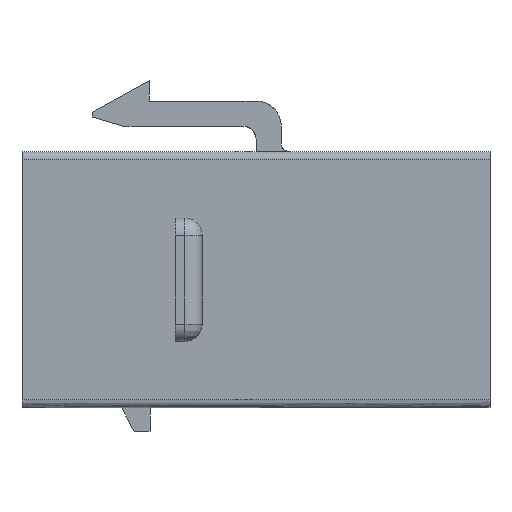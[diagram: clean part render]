
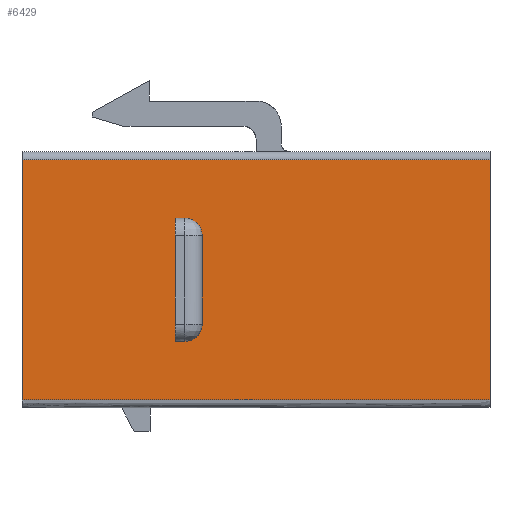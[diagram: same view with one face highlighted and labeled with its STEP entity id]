
A CAD part, front view. The second image highlights one B-rep face of the part: STEP entity #6429.
In plain terms, the highlighted free-form (B-spline) face has degree [1, 1] with [2, 2] control points.
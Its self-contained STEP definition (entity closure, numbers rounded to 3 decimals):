
#1517=CARTESIAN_POINT('',(9.696,0.,4.191));
#1518=VERTEX_POINT('',#1517);
#1537=CARTESIAN_POINT('',(10.305,0.,4.191));
#1538=VERTEX_POINT('',#1537);
#1539=CARTESIAN_POINT('',(10.305,0.,4.191));
#1540=CARTESIAN_POINT('',(10.183,0.,4.191));
#1541=CARTESIAN_POINT('',(10.061,0.,4.191));
#1542=CARTESIAN_POINT('',(9.94,0.,4.191));
#1543=CARTESIAN_POINT('',(9.818,0.,4.191));
#1544=CARTESIAN_POINT('',(9.696,0.,4.191));
#1545=B_SPLINE_CURVE_WITH_KNOTS('',5,(#1539,#1540,#1541,#1542,#1543,#1544),.UNSPECIFIED.,.F.,.U.,(6,6),(0.,0.609),.UNSPECIFIED.);
#1546=EDGE_CURVE('',#1538,#1518,#1545,.T.);
#1656=CARTESIAN_POINT('',(11.399,0.,5.284));
#1657=VERTEX_POINT('',#1656);
#1658=CARTESIAN_POINT('',(10.305,0.,4.191));
#1659=CARTESIAN_POINT('',(10.391,0.,4.191));
#1660=CARTESIAN_POINT('',(10.477,0.,4.199));
#1661=CARTESIAN_POINT('',(10.561,0.,4.216));
#1662=CARTESIAN_POINT('',(10.727,0.,4.266));
#1663=CARTESIAN_POINT('',(10.879,0.,4.347));
#1664=CARTESIAN_POINT('',(10.951,0.,4.395));
#1665=CARTESIAN_POINT('',(11.084,0.,4.505));
#1666=CARTESIAN_POINT('',(11.194,0.,4.638));
#1667=CARTESIAN_POINT('',(11.242,0.,4.71));
#1668=CARTESIAN_POINT('',(11.323,0.,4.863));
#1669=CARTESIAN_POINT('',(11.373,0.,5.028));
#1670=CARTESIAN_POINT('',(11.39,0.,5.113));
#1671=CARTESIAN_POINT('',(11.399,0.,5.199));
#1672=CARTESIAN_POINT('',(11.399,0.,5.284));
#1673=B_SPLINE_CURVE_WITH_KNOTS('',5,(#1658,#1659,#1660,#1661,#1662,#1663,#1664,#1665,#1666,#1667,#1668,#1669,#1670,#1671,#1672),.UNSPECIFIED.,.F.,.U.,(6,3,3,3,6),(0.,0.393,0.785,1.178,1.571),.UNSPECIFIED.);
#1674=EDGE_CURVE('',#1538,#1657,#1673,.T.);
#1715=CARTESIAN_POINT('',(9.696,0.,11.99));
#1716=VERTEX_POINT('',#1715);
#1735=CARTESIAN_POINT('',(9.696,0.,4.191));
#1736=CARTESIAN_POINT('',(9.696,0.,5.75));
#1737=CARTESIAN_POINT('',(9.696,0.,7.31));
#1738=CARTESIAN_POINT('',(9.696,0.,8.87));
#1739=CARTESIAN_POINT('',(9.696,0.,10.43));
#1740=CARTESIAN_POINT('',(9.696,0.,11.99));
#1741=B_SPLINE_CURVE_WITH_KNOTS('',5,(#1735,#1736,#1737,#1738,#1739,#1740),.UNSPECIFIED.,.F.,.U.,(6,6),(0.,7.799),.UNSPECIFIED.);
#1742=EDGE_CURVE('',#1518,#1716,#1741,.T.);
#1793=CARTESIAN_POINT('',(11.399,0.,10.896));
#1794=VERTEX_POINT('',#1793);
#1795=CARTESIAN_POINT('',(11.399,0.,10.896));
#1796=CARTESIAN_POINT('',(11.399,0.,9.774));
#1797=CARTESIAN_POINT('',(11.399,0.,8.651));
#1798=CARTESIAN_POINT('',(11.399,0.,7.529));
#1799=CARTESIAN_POINT('',(11.399,0.,6.407));
#1800=CARTESIAN_POINT('',(11.399,0.,5.284));
#1801=B_SPLINE_CURVE_WITH_KNOTS('',5,(#1795,#1796,#1797,#1798,#1799,#1800),.UNSPECIFIED.,.F.,.U.,(6,6),(0.,5.612),.UNSPECIFIED.);
#1802=EDGE_CURVE('',#1794,#1657,#1801,.T.);
#1863=CARTESIAN_POINT('',(10.305,0.,11.99));
#1864=VERTEX_POINT('',#1863);
#1865=CARTESIAN_POINT('',(11.399,0.,10.896));
#1866=CARTESIAN_POINT('',(11.399,0.,10.982));
#1867=CARTESIAN_POINT('',(11.39,0.,11.068));
#1868=CARTESIAN_POINT('',(11.373,0.,11.153));
#1869=CARTESIAN_POINT('',(11.323,0.,11.318));
#1870=CARTESIAN_POINT('',(11.242,0.,11.47));
#1871=CARTESIAN_POINT('',(11.194,0.,11.542));
#1872=CARTESIAN_POINT('',(11.084,0.,11.676));
#1873=CARTESIAN_POINT('',(10.951,0.,11.785));
#1874=CARTESIAN_POINT('',(10.879,0.,11.833));
#1875=CARTESIAN_POINT('',(10.727,0.,11.914));
#1876=CARTESIAN_POINT('',(10.561,0.,11.965));
#1877=CARTESIAN_POINT('',(10.477,0.,11.982));
#1878=CARTESIAN_POINT('',(10.391,0.,11.99));
#1879=CARTESIAN_POINT('',(10.305,0.,11.99));
#1880=B_SPLINE_CURVE_WITH_KNOTS('',5,(#1865,#1866,#1867,#1868,#1869,#1870,#1871,#1872,#1873,#1874,#1875,#1876,#1877,#1878,#1879),.UNSPECIFIED.,.F.,.U.,(6,3,3,3,6),(0.,0.393,0.785,1.178,1.571),.UNSPECIFIED.);
#1881=EDGE_CURVE('',#1794,#1864,#1880,.T.);
#1949=CARTESIAN_POINT('',(9.696,0.,11.99));
#1950=CARTESIAN_POINT('',(9.818,0.,11.99));
#1951=CARTESIAN_POINT('',(9.94,0.,11.99));
#1952=CARTESIAN_POINT('',(10.061,0.,11.99));
#1953=CARTESIAN_POINT('',(10.183,0.,11.99));
#1954=CARTESIAN_POINT('',(10.305,0.,11.99));
#1955=B_SPLINE_CURVE_WITH_KNOTS('',5,(#1949,#1950,#1951,#1952,#1953,#1954),.UNSPECIFIED.,.F.,.U.,(6,6),(0.,0.609),.UNSPECIFIED.);
#1956=EDGE_CURVE('',#1716,#1864,#1955,.T.);
#2370=CARTESIAN_POINT('',(0.,0.,0.5));
#2371=VERTEX_POINT('',#2370);
#2392=CARTESIAN_POINT('',(29.6,0.,0.5));
#2393=VERTEX_POINT('',#2392);
#2406=CARTESIAN_POINT('',(29.6,0.,0.5));
#2407=CARTESIAN_POINT('',(23.68,0.,0.5));
#2408=CARTESIAN_POINT('',(17.76,0.,0.5));
#2409=CARTESIAN_POINT('',(11.84,0.,0.5));
#2410=CARTESIAN_POINT('',(5.92,0.,0.5));
#2411=CARTESIAN_POINT('',(0.,0.,0.5));
#2412=B_SPLINE_CURVE_WITH_KNOTS('',5,(#2406,#2407,#2408,#2409,#2410,#2411),.UNSPECIFIED.,.F.,.U.,(6,6),(0.,29.6),.UNSPECIFIED.);
#2413=EDGE_CURVE('',#2393,#2371,#2412,.T.);
#2429=CARTESIAN_POINT('',(29.6,0.,15.699));
#2430=VERTEX_POINT('',#2429);
#2450=CARTESIAN_POINT('',(0.,0.,15.699));
#2451=VERTEX_POINT('',#2450);
#2470=CARTESIAN_POINT('',(0.,0.,15.699));
#2471=CARTESIAN_POINT('',(5.92,0.,15.699));
#2472=CARTESIAN_POINT('',(11.84,0.,15.699));
#2473=CARTESIAN_POINT('',(17.76,0.,15.699));
#2474=CARTESIAN_POINT('',(23.68,0.,15.699));
#2475=CARTESIAN_POINT('',(29.6,0.,15.699));
#2476=B_SPLINE_CURVE_WITH_KNOTS('',5,(#2470,#2471,#2472,#2473,#2474,#2475),.UNSPECIFIED.,.F.,.U.,(6,6),(0.,29.6),.UNSPECIFIED.);
#2477=EDGE_CURVE('',#2451,#2430,#2476,.T.);
#6394=CARTESIAN_POINT('',(0.,0.,0.5));
#6395=CARTESIAN_POINT('',(29.6,0.,0.5));
#6396=CARTESIAN_POINT('',(0.,0.,15.699));
#6397=CARTESIAN_POINT('',(29.6,0.,15.699));
#6398=B_SPLINE_SURFACE_WITH_KNOTS('',1,1,((#6394,#6395),(#6396,#6397)),.PLANE_SURF.,.F.,.F.,.U.,(2,2),(2,2),(0.,1.),(0.,1.948),.UNSPECIFIED.);
#6399=CARTESIAN_POINT('',(0.,0.,0.5));
#6400=CARTESIAN_POINT('',(0.,0.,3.54));
#6401=CARTESIAN_POINT('',(0.,0.,6.579));
#6402=CARTESIAN_POINT('',(0.,0.,9.619));
#6403=CARTESIAN_POINT('',(0.,0.,12.659));
#6404=CARTESIAN_POINT('',(0.,0.,15.699));
#6405=B_SPLINE_CURVE_WITH_KNOTS('',5,(#6399,#6400,#6401,#6402,#6403,#6404),.UNSPECIFIED.,.F.,.U.,(6,6),(0.,15.199),.UNSPECIFIED.);
#6406=EDGE_CURVE('',#2371,#2451,#6405,.T.);
#6407=ORIENTED_EDGE('',*,*,#6406,.T.);
#6408=ORIENTED_EDGE('',*,*,#2477,.T.);
#6409=CARTESIAN_POINT('',(29.6,0.,15.699));
#6410=CARTESIAN_POINT('',(29.6,0.,12.659));
#6411=CARTESIAN_POINT('',(29.6,0.,9.619));
#6412=CARTESIAN_POINT('',(29.6,0.,6.579));
#6413=CARTESIAN_POINT('',(29.6,0.,3.54));
#6414=CARTESIAN_POINT('',(29.6,0.,0.5));
#6415=B_SPLINE_CURVE_WITH_KNOTS('',5,(#6409,#6410,#6411,#6412,#6413,#6414),.UNSPECIFIED.,.F.,.U.,(6,6),(0.,15.199),.UNSPECIFIED.);
#6416=EDGE_CURVE('',#2430,#2393,#6415,.T.);
#6417=ORIENTED_EDGE('',*,*,#6416,.T.);
#6418=ORIENTED_EDGE('',*,*,#2413,.T.);
#6419=EDGE_LOOP('',(#6407,#6408,#6417,#6418));
#6420=FACE_OUTER_BOUND('',#6419,.F.);
#6421=ORIENTED_EDGE('',*,*,#1546,.F.);
#6422=ORIENTED_EDGE('',*,*,#1674,.T.);
#6423=ORIENTED_EDGE('',*,*,#1802,.F.);
#6424=ORIENTED_EDGE('',*,*,#1881,.T.);
#6425=ORIENTED_EDGE('',*,*,#1956,.F.);
#6426=ORIENTED_EDGE('',*,*,#1742,.F.);
#6427=EDGE_LOOP('',(#6421,#6422,#6423,#6424,#6425,#6426));
#6428=FACE_BOUND('',#6427,.F.);
#6429=ADVANCED_FACE('',(#6420,#6428),#6398,.F.);
